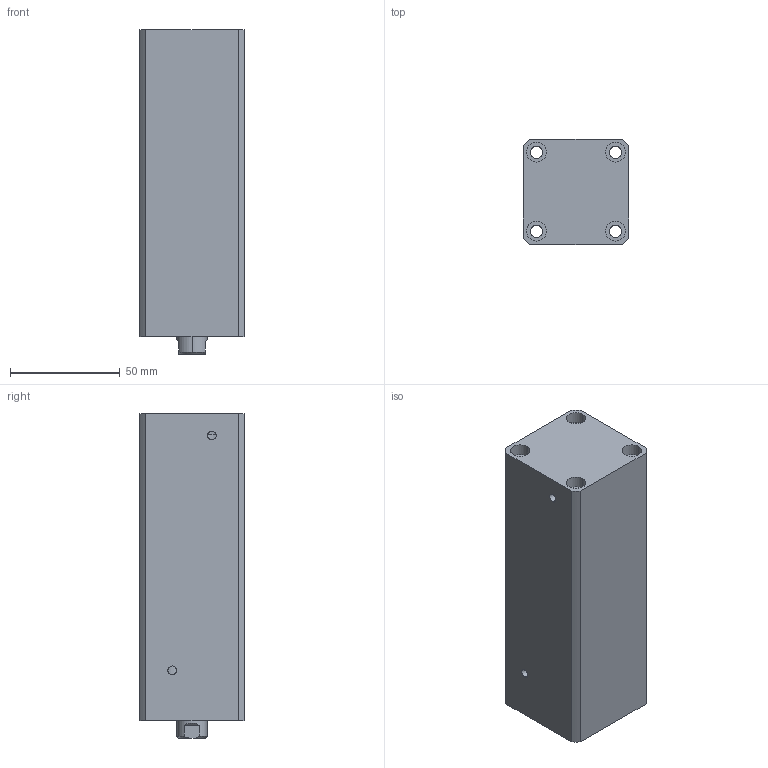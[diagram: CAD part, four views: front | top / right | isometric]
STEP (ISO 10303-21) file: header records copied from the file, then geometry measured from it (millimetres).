
FILE_DESCRIPTION (( 'STEP AP214' ), '1' );
FILE_NAME ('chtb-sdma25x95n_asm.STEP', '2018-05-22T07:13:51', ( 'Windows' ), ( 'Microsoft' ), 'SwSTEP 2.0', 'SolidWorks 2015', '' );
FILE_SCHEMA (( 'AUTOMOTIVE_DESIGN' ));
Length unit declared in the file: millimetre
Products named in the file (4): CHTB-SDMA25X95NHSG; CHTB-SDMA25X95NBT; CHTB-25QG; chtb-sdma25x95n_asm
Assembly tree (3 placements, depth 2):
  chtb-sdma25x95n_asm
    CHTB-25QG
    CHTB-SDMA25X95NBT
    CHTB-SDMA25X95NHSG
Bounding box: 48 x 48 x 148 mm (x, y, z)
Volume: 270376.6 mm3; surface area: 66678.8 mm2
Topology: 3 solids, 3 shells, 142 faces, 379 edges, 257 vertices
Faces by surface type: cylinder 89, plane 34, bspline 10, cone 9
Entity records: 8020 total; most frequent: CARTESIAN_POINT 4393, ORIENTED_EDGE 746, DIRECTION 661, EDGE_CURVE 373, AXIS2_PLACEMENT_3D 272, VERTEX_POINT 257, EDGE_LOOP 180, ADVANCED_FACE 142
